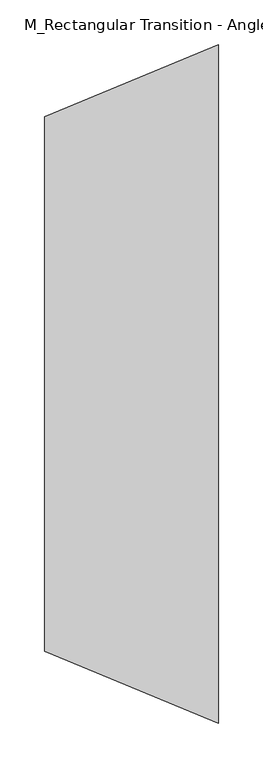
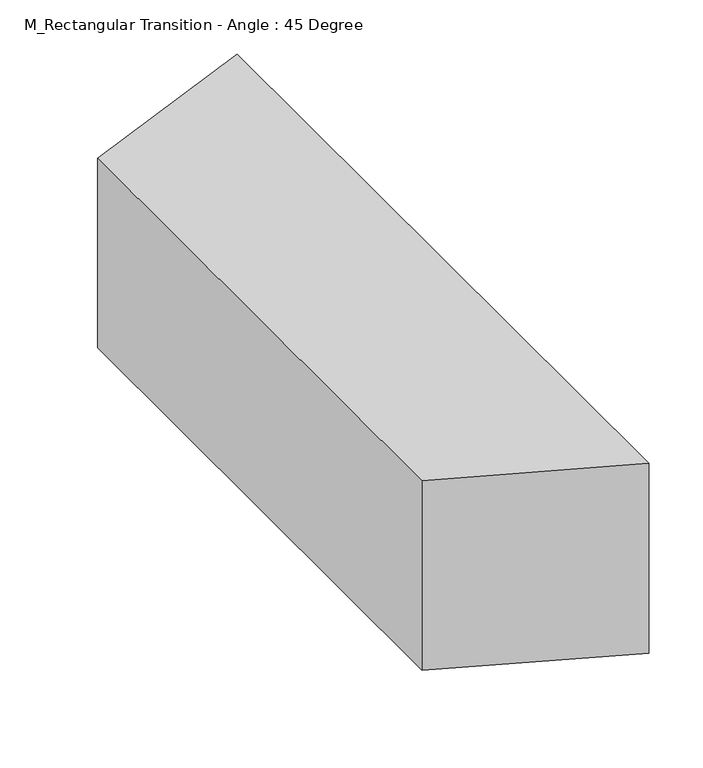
"""IFC4 building model written with IfcOpenShell, lengths in millimetres: duct fitting geometry, M_Rectangular Transition - Angle : 45 Degree."""

from ifc_helpers import new_model, si_unit, origin, place, context, project, spatial, faceted_brep, source, transform, mapped, element, save


def m_rectangular_transition_angle_45_degree_4bb09f68(model_context):
    return source(origin(), model_context, "Body", "Brep", [
        faceted_brep([(195.4004102, -380.9375, 107.15), (195.4004102, -380.9375, -107.15), (195.4004102, 380.9375, -107.15), (195.4004102, 380.9375, 107.15), (0.0, -300.0, 107.0), (0.0, 300.0, 107.0), (0.0, 300.0, -107.0), (0.0, -300.0, -107.0)], [[[0, 1, 2, 3]], [[4, 5, 6, 7]], [[4, 7, 1, 0]], [[7, 6, 2, 1]], [[6, 5, 3, 2]], [[5, 4, 0, 3]]]),
    ])


if __name__ == "__main__":
    model = new_model("IFC4")
    model_context = context("Model", 3, world=origin())
    ifc_project = project(units=[si_unit("LENGTHUNIT", "METRE", prefix="MILLI")], contexts=[model_context])
    site = spatial("IfcSite", under=ifc_project)
    building = spatial("IfcBuilding", under=site)
    placement = place(None, origin())
    m_rectangular_transition_angle_45_degree_shape = m_rectangular_transition_angle_45_degree_4bb09f68(model_context)
    element("IfcDuctFitting", 1, ObjectType="M_Rectangular Transition - Angle : 45 Degree", at=placement, inside=building, context=model_context, shape_type="MappedRepresentation", body=[
        mapped(m_rectangular_transition_angle_45_degree_shape, transform((0.0, 0.0, 0.0), x_axis=(1.0, 0.0, 0.0), y_axis=(0.0, 1.0, 0.0), z_axis=(0.0, 0.0, 1.0))),
    ])
    save(model, "model.ifc")
